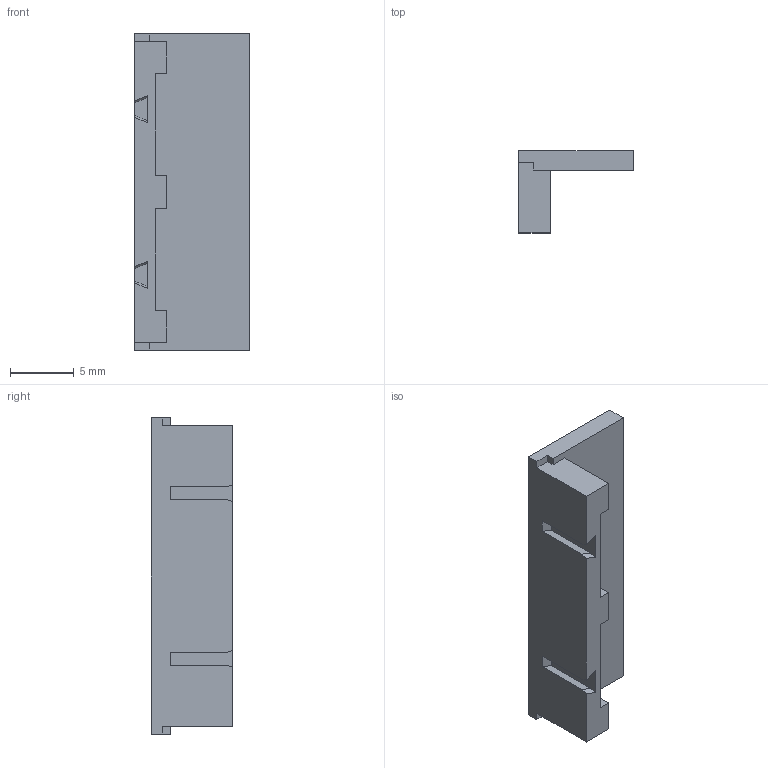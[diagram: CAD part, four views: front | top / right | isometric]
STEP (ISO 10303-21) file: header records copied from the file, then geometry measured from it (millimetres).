
FILE_DESCRIPTION(('STEP AP214'),'2;1');
FILE_NAME('094004_catalogo.stp','2010-09-07T14:24:39',(''),(''),'2007.1.106','THINKDESIGN','');
FILE_SCHEMA(('AUTOMOTIVE_DESIGN'));
Length unit declared in the file: millimetre
Products named in the file (1): None
Bounding box: 9 x 6.4 x 24.8 mm (x, y, z)
Surface area: 847.2 mm2 (no closed solid volume)
Topology: 0 solids, 0 shells, 32 faces, 184 edges, 184 vertices
Faces by surface type: plane 32
Entity records: 1817 total; most frequent: CARTESIAN_POINT 400, DIRECTION 248, VECTOR 184, LINE 184, TRIMMED_CURVE 184, COMPOSITE_CURVE_SEGMENT 184, AXIS2_PLACEMENT_3D 32, PLANE 32
